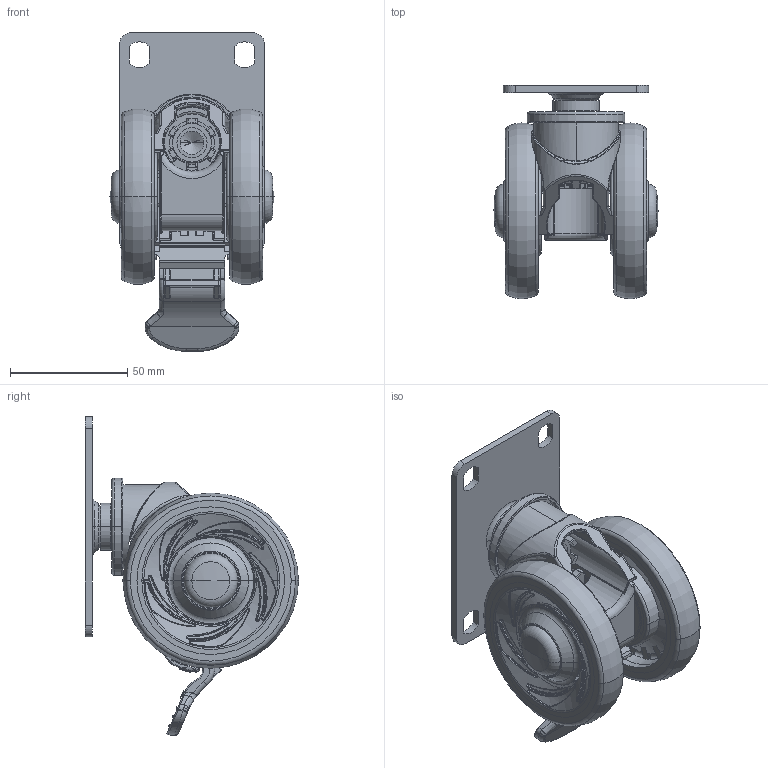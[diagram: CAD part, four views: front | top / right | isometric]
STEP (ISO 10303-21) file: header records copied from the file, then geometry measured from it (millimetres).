
FILE_DESCRIPTION((''),'2;1');
FILE_NAME('PRT0054','2026-04-13T13:38:47',('Administrator'),(''),'CREO PARAMETRIC BY PTC INC, 2022124','CREO PARAMETRIC BY PTC INC, 2022124','');
FILE_SCHEMA(('AUTOMOTIVE_DESIGN { 1 0 10303 214 1 1 1 1 }'));
Length unit declared in the file: millimetre
Products named in the file (1): PRT0054
Bounding box: 69.99 x 91 x 136.02 mm (x, y, z)
Surface area: 61201.2 mm2 (no closed solid volume)
Topology: 0 solids, 102 shells, 779 faces, 3711 edges, 2959 vertices
Faces by surface type: plane 209, bspline 198, cylinder 195, torus 147, cone 24, sphere 4, extrusion 2
Entity records: 64069 total; most frequent: CARTESIAN_POINT 32445, ORIENTED_EDGE 4878, DIRECTION 4785, EDGE_CURVE 3705, VERTEX_POINT 2959, AXIS2_PLACEMENT_3D 1862, B_SPLINE_CURVE_WITH_KNOTS 1378, CIRCLE 1273
